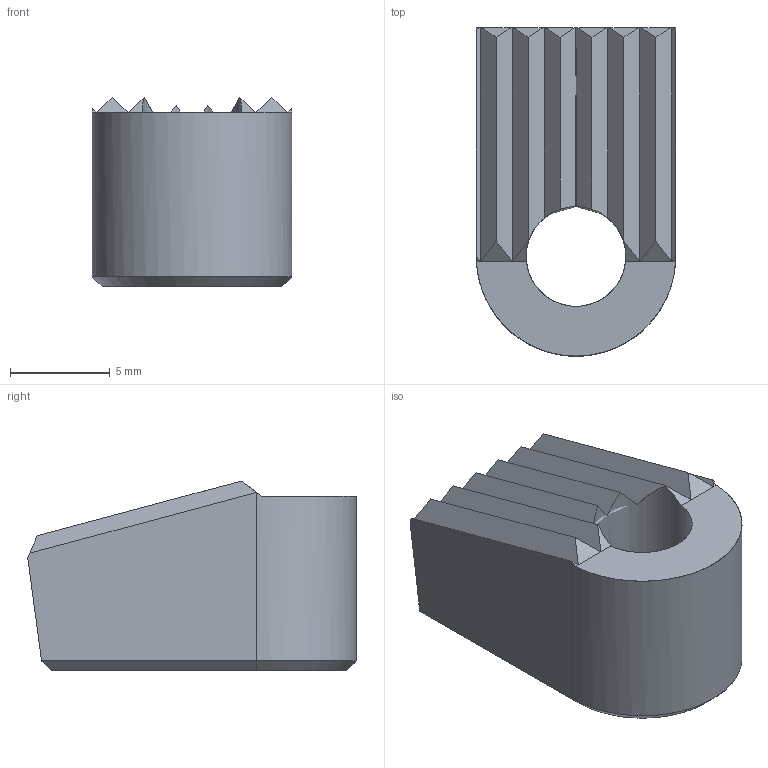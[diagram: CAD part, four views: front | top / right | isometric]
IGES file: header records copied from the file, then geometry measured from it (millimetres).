
Start section: SolidWorks IGES FILE using analytic representation for surfaces
Global section: file name: C:\WIX2\Positioning\3550\3550W010.igs; native system: SolidWorks 2003 by SolidWorks Corporation; preprocessor: Version 5.3; author: Joan; date: 030722.164444; units: millimetre
Bounding box: 10 x 16.48 x 9.52 mm (x, y, z)
Surface area: 817.4 mm2 (no closed solid volume)
Topology: 0 solids, 0 shells, 40 faces, 307 edges, 307 vertices
Faces by surface type: bspline 36, revolution 4
